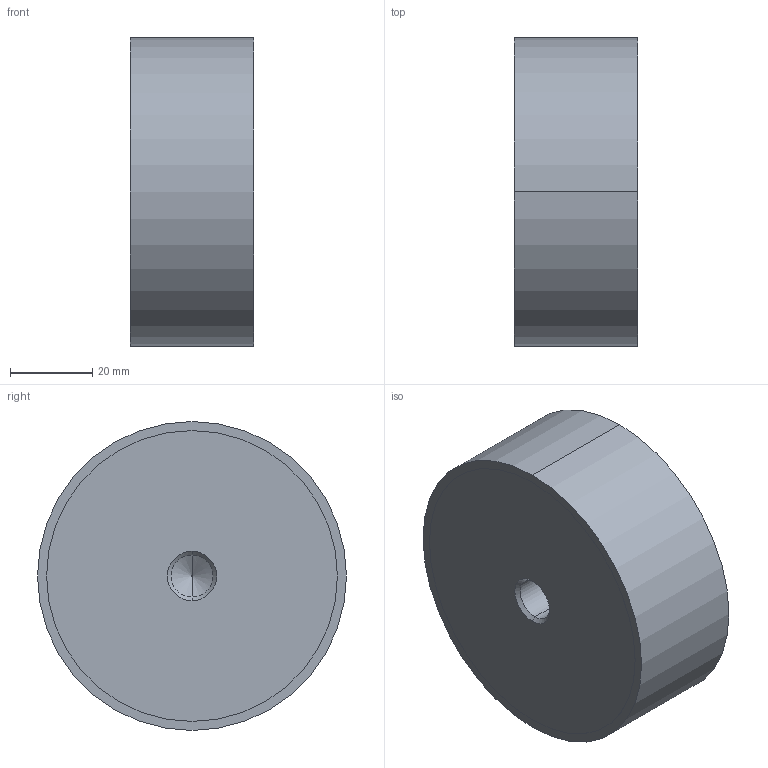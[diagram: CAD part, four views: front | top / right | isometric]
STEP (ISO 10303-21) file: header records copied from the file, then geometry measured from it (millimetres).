
FILE_DESCRIPTION (( 'STEP AP214' ), '1' );
FILE_NAME ('451-75-30-M12-EE-55.step', '2020-03-05T09:15:07', ( '' ), ( '' ), 'SwSTEP 2.0', 'SolidWorks 2019', '' );
FILE_SCHEMA (( 'AUTOMOTIVE_DESIGN' ));
Length unit declared in the file: millimetre
Products named in the file (1): 451-75-30-M12-EE-55
Bounding box: 30 x 75 x 75 mm (x, y, z)
Volume: 130304.4 mm3; surface area: 16673 mm2
Topology: 1 solids, 1 shells, 22 faces, 44 edges, 26 vertices
Faces by surface type: cylinder 10, cone 8, plane 4
Entity records: 700 total; most frequent: DIRECTION 116, CARTESIAN_POINT 93, ORIENTED_EDGE 88, AXIS2_PLACEMENT_3D 49, EDGE_CURVE 44, CIRCLE 26, VERTEX_POINT 26, EDGE_LOOP 26
